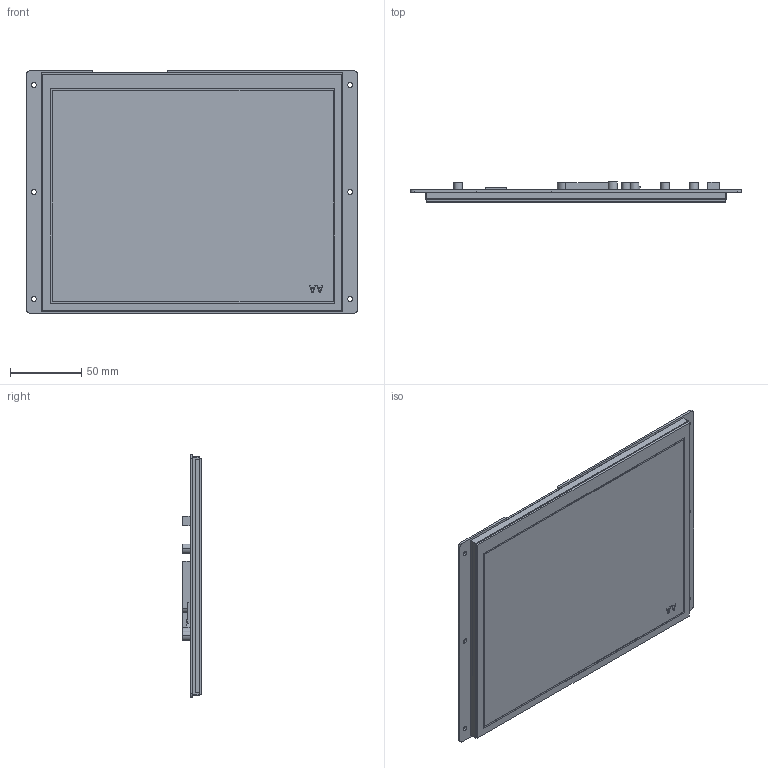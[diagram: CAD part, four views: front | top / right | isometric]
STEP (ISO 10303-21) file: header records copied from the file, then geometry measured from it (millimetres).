
FILE_DESCRIPTION((''),'2;1');
FILE_NAME('DMG10768K097-03WTC_ASM','2022-02-22T',('Administrator'),(''),'PRO/ENGINEER BY PARAMETRIC TECHNOLOGY CORPORATION, 2014320','PRO/ENGINEER BY PARAMETRIC TECHNOLOGY CORPORATION, 2014320','');
FILE_SCHEMA(('CONFIG_CONTROL_DESIGN','SHAPE_APPEARANCE_LAYERS_GROUPS'));
Length unit declared in the file: millimetre
Products named in the file (5): TK097001; LN10768T097HB3004; PCB; HR4-8890; DMG10768K097-03WTC_ASM
Assembly tree (4 placements, depth 2):
  DMG10768K097-03WTC_ASM
    TK097001
    LN10768T097HB3004
    PCB
    HR4-8890
Bounding box: 232.41 x 13.9 x 170.69 mm (x, y, z)
Volume: 216165.8 mm3; surface area: 242759.2 mm2
Topology: 4 solids, 4 shells, 225 faces, 576 edges, 384 vertices
Faces by surface type: plane 189, cylinder 36
Entity records: 7079 total; most frequent: CARTESIAN_POINT 1194, ORIENTED_EDGE 1152, DIRECTION 1116, EDGE_CURVE 576, VECTOR 504, LINE 504, VERTEX_POINT 384, AXIS2_PLACEMENT_3D 306
